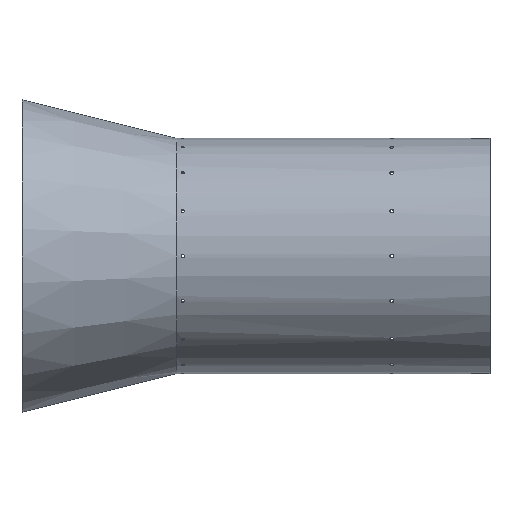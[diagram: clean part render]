
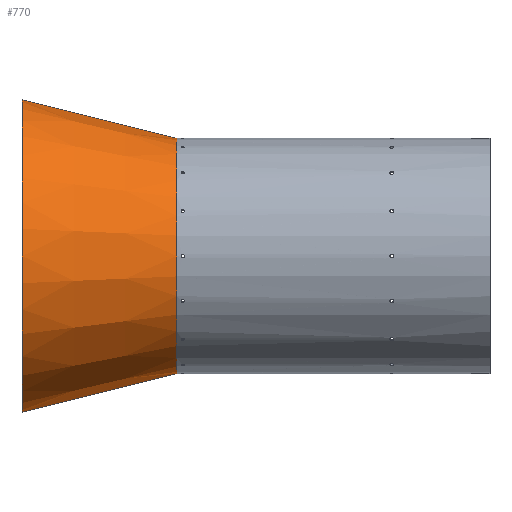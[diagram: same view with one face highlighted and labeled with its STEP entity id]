
A CAD part, left-side view. The second image highlights one B-rep face of the part: STEP entity #770.
In plain terms, the highlighted conical face has half-angle 14.036 degrees and reference radius 152 mm.
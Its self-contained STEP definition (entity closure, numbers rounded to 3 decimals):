
#32 = CIRCLE ( 'NONE', #3415, 152. ) ;
#182 = DIRECTION ( 'NONE',  ( 0., 0.97, 0.243 ) ) ;
#359 = DIRECTION ( 'NONE',  ( 0., 1., 0. ) ) ;
#491 = EDGE_CURVE ( 'NONE', #5211, #1549, #1362, .T. ) ;
#504 = CARTESIAN_POINT ( 'NONE',  ( 0., 604.515, 201.94 ) ) ;
#573 = VERTEX_POINT ( 'NONE', #1128 ) ;
#651 = AXIS2_PLACEMENT_3D ( 'NONE', #5704, #359, #1344 ) ;
#770 = ADVANCED_FACE ( 'NONE', ( #3733 ), #6296, .T. ) ;
#1032 = VECTOR ( 'NONE', #182, 1000. ) ;
#1128 = CARTESIAN_POINT ( 'NONE',  ( 0., 404.754, -152. ) ) ;
#1220 = CARTESIAN_POINT ( 'NONE',  ( 0., 404.754, -152. ) ) ;
#1344 = DIRECTION ( 'NONE',  ( 0., 0., 1. ) ) ;
#1362 = CIRCLE ( 'NONE', #2081, 201.94 ) ;
#1549 = VERTEX_POINT ( 'NONE', #5384 ) ;
#1959 = EDGE_CURVE ( 'NONE', #6040, #5211, #3966, .T. ) ;
#1962 = DIRECTION ( 'NONE',  ( 0., -1., 0. ) ) ;
#1998 = ORIENTED_EDGE ( 'NONE', *, *, #491, .T. ) ;
#2081 = AXIS2_PLACEMENT_3D ( 'NONE', #2962, #1962, #3930 ) ;
#2206 = CARTESIAN_POINT ( 'NONE',  ( 0., 404.754, 152. ) ) ;
#2665 = LINE ( 'NONE', #1220, #3006 ) ;
#2962 = CARTESIAN_POINT ( 'NONE',  ( 0., 604.515, 0. ) ) ;
#3006 = VECTOR ( 'NONE', #4608, 1000. ) ;
#3068 = CARTESIAN_POINT ( 'NONE',  ( 0., 404.754, 152. ) ) ;
#3394 = EDGE_CURVE ( 'NONE', #6040, #573, #32, .T. ) ;
#3415 = AXIS2_PLACEMENT_3D ( 'NONE', #5501, #5074, #6012 ) ;
#3733 = FACE_OUTER_BOUND ( 'NONE', #4561, .T. ) ;
#3913 = ORIENTED_EDGE ( 'NONE', *, *, #3394, .F. ) ;
#3930 = DIRECTION ( 'NONE',  ( 0., 0., -1. ) ) ;
#3966 = LINE ( 'NONE', #3068, #1032 ) ;
#4149 = ORIENTED_EDGE ( 'NONE', *, *, #5083, .F. ) ;
#4500 = ORIENTED_EDGE ( 'NONE', *, *, #1959, .T. ) ;
#4561 = EDGE_LOOP ( 'NONE', ( #4149, #3913, #4500, #1998 ) ) ;
#4608 = DIRECTION ( 'NONE',  ( 0., 0.97, -0.243 ) ) ;
#5074 = DIRECTION ( 'NONE',  ( 0., -1., 0. ) ) ;
#5083 = EDGE_CURVE ( 'NONE', #573, #1549, #2665, .T. ) ;
#5211 = VERTEX_POINT ( 'NONE', #504 ) ;
#5384 = CARTESIAN_POINT ( 'NONE',  ( 0., 604.515, -201.94 ) ) ;
#5501 = CARTESIAN_POINT ( 'NONE',  ( 0., 404.754, 0. ) ) ;
#5704 = CARTESIAN_POINT ( 'NONE',  ( 0., 404.754, 0. ) ) ;
#6012 = DIRECTION ( 'NONE',  ( 0., 0., -1. ) ) ;
#6040 = VERTEX_POINT ( 'NONE', #2206 ) ;
#6296 = CONICAL_SURFACE ( 'NONE', #651, 152., 0.245 ) ;
